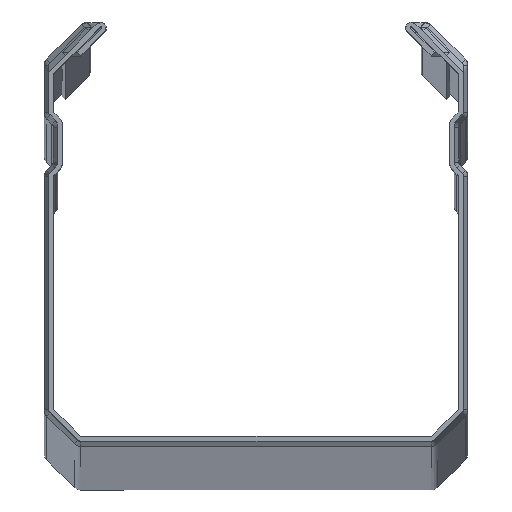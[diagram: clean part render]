
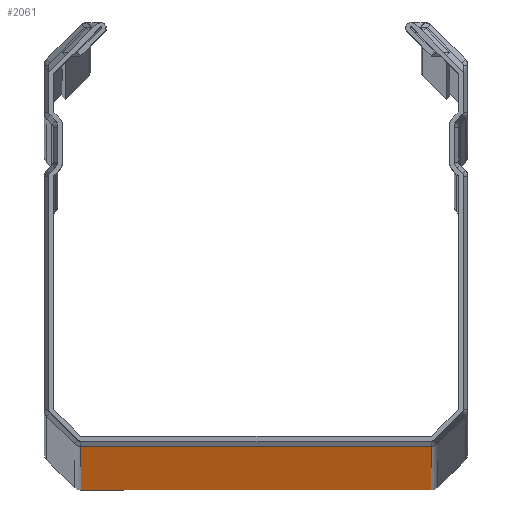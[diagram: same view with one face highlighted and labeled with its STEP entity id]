
A CAD part, top view. The second image highlights one B-rep face of the part: STEP entity #2061.
In plain terms, the highlighted planar face has unit normal (0, -1, 0).
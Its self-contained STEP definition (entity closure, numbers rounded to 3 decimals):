
#809 = ORIENTED_EDGE ( 'NONE', *, *, #10987, .T. ) ;
#853 = PLANE ( 'NONE',  #2053 ) ;
#911 = ORIENTED_EDGE ( 'NONE', *, *, #9363, .F. ) ;
#1137 = LINE ( 'NONE', #8087, #5166 ) ;
#1560 = VECTOR ( 'NONE', #1761, 1000. ) ;
#1761 = DIRECTION ( 'NONE',  ( 0., 0., -1. ) ) ;
#1871 = CARTESIAN_POINT ( 'NONE',  ( 6.902, 0., 2950. ) ) ;
#2053 = AXIS2_PLACEMENT_3D ( 'NONE', #4973, #8425, #8481 ) ;
#2061 = ADVANCED_FACE ( 'NONE', ( #2365 ), #853, .T. ) ;
#2133 = VERTEX_POINT ( 'NONE', #10185 ) ;
#2293 = VERTEX_POINT ( 'NONE', #10500 ) ;
#2365 = FACE_OUTER_BOUND ( 'NONE', #2442, .T. ) ;
#2442 = EDGE_LOOP ( 'NONE', ( #809, #4211, #6378, #911 ) ) ;
#3522 = VERTEX_POINT ( 'NONE', #7600 ) ;
#3719 = DIRECTION ( 'NONE',  ( 0., 0., -1. ) ) ;
#4211 = ORIENTED_EDGE ( 'NONE', *, *, #10631, .T. ) ;
#4585 = DIRECTION ( 'NONE',  ( -1., 0., 0. ) ) ;
#4973 = CARTESIAN_POINT ( 'NONE',  ( 0., 0., 3000. ) ) ;
#5166 = VECTOR ( 'NONE', #4585, 1000. ) ;
#5245 = CARTESIAN_POINT ( 'NONE',  ( -6.902, 0., 2950. ) ) ;
#6150 = CARTESIAN_POINT ( 'NONE',  ( 20.707, 0., 3000. ) ) ;
#6378 = ORIENTED_EDGE ( 'NONE', *, *, #10764, .F. ) ;
#6561 = VERTEX_POINT ( 'NONE', #7399 ) ;
#7134 = CARTESIAN_POINT ( 'NONE',  ( 20.707, 0., 2950. ) ) ;
#7399 = CARTESIAN_POINT ( 'NONE',  ( -20.707, 0., 0. ) ) ;
#7600 = CARTESIAN_POINT ( 'NONE',  ( 20.707, 0., 2950. ) ) ;
#8059 = VECTOR ( 'NONE', #3719, 1000. ) ;
#8087 = CARTESIAN_POINT ( 'NONE',  ( 0., 0., 0. ) ) ;
#8425 = DIRECTION ( 'NONE',  ( 0., -1., 0. ) ) ;
#8481 = DIRECTION ( 'NONE',  ( 1., 0., 0. ) ) ;
#8700 = LINE ( 'NONE', #6150, #8059 ) ;
#8873 = CARTESIAN_POINT ( 'NONE',  ( -20.707, 0., 2950. ) ) ;
#9363 = EDGE_CURVE ( 'NONE', #3522, #2133, #8700, .T. ) ;
#10185 = CARTESIAN_POINT ( 'NONE',  ( 20.707, 0., 0. ) ) ;
#10354 = LINE ( 'NONE', #10412, #1560 ) ;
#10412 = CARTESIAN_POINT ( 'NONE',  ( -20.707, 0., 3000. ) ) ;
#10500 = CARTESIAN_POINT ( 'NONE',  ( -20.707, 0., 2950. ) ) ;
#10542 = B_SPLINE_CURVE_WITH_KNOTS ( 'NONE', 3,
 ( #7134, #1871, #5245, #8873 ),
 .UNSPECIFIED., .F., .F.,
 ( 4, 4 ),
 ( 0., 1. ),
 .UNSPECIFIED. ) ;
#10631 = EDGE_CURVE ( 'NONE', #2293, #6561, #10354, .T. ) ;
#10764 = EDGE_CURVE ( 'NONE', #2133, #6561, #1137, .T. ) ;
#10987 = EDGE_CURVE ( 'NONE', #3522, #2293, #10542, .T. ) ;
